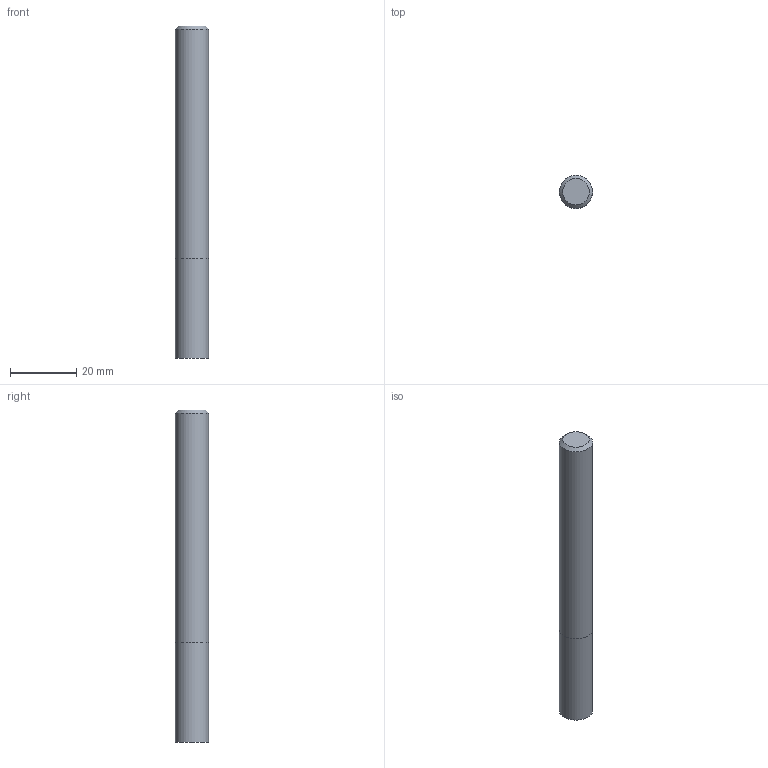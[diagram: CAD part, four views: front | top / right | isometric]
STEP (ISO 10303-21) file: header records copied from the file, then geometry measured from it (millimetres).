
FILE_DESCRIPTION((''),'2;1');
FILE_NAME('C:\Users\nsx150\AppData\Local\Temp\Mastercam 2021\W9Z147XDNF\TEMP.step','2021-04-08T14:45:54',(''),(''),'STEP Write','Mastercam 2021 ... CNC Software, Inc.','');
FILE_SCHEMA(('AUTOMOTIVE_DESIGN'));
Length unit declared in the file: millimetre
Products named in the file (1): None
Bounding box: 10 x 10 x 100 mm (x, y, z)
Volume: 7839.3 mm3; surface area: 3436 mm2
Topology: 2 solids, 2 shells, 7 faces, 8 edges, 5 vertices
Faces by surface type: plane 4, cylinder 2, cone 1
Full cylindrical faces by diameter (mm): 10 x2
Entity records: 169 total; most frequent: DIRECTION 28, CARTESIAN_POINT 19, AXIS2_PLACEMENT_3D 14, ORIENTED_EDGE 10, EDGE_LOOP 10, STYLED_ITEM 10, ADVANCED_FACE 7, VERTEX_POINT 5
